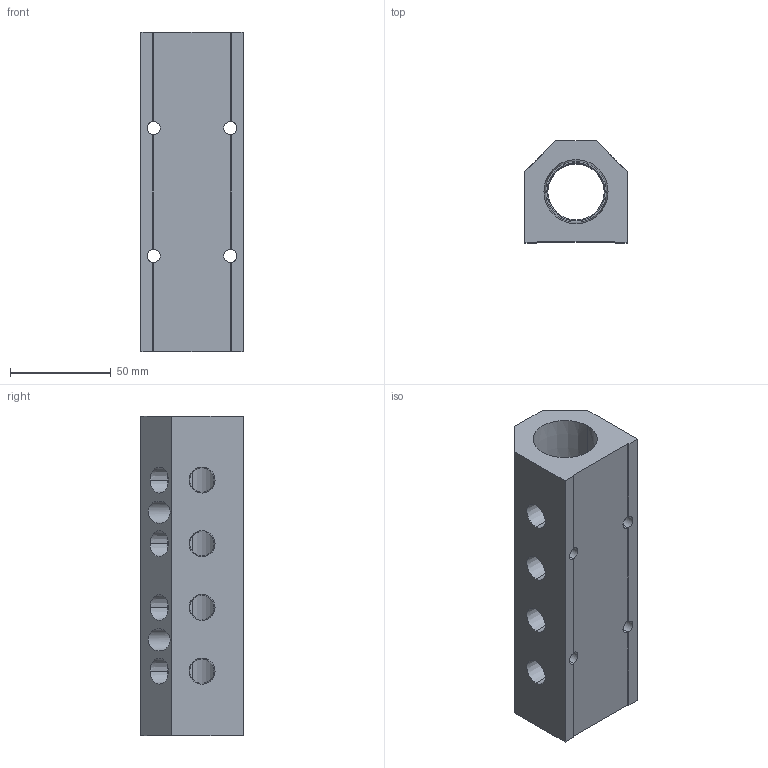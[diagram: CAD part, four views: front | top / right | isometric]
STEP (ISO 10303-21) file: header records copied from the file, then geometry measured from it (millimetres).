
FILE_DESCRIPTION (( 'STEP AP214' ), '1' );
FILE_NAME ('ALM4ABC-N4N16-159B.STEP', '2023-11-02T06:33:19', ( '' ), ( '' ), 'SwSTEP 2.0', 'SolidWorks 2020', '' );
FILE_SCHEMA (( 'AUTOMOTIVE_DESIGN' ));
Length unit declared in the file: millimetre
Products named in the file (1): ALM4ABC-N4N16-159B
Bounding box: 50.8 x 50.8 x 159 mm (x, y, z)
Volume: 239195.5 mm3; surface area: 53439.8 mm2
Topology: 1 solids, 1 shells, 335 faces, 887 edges, 586 vertices
Faces by surface type: plane 224, bspline 57, cone 32, cylinder 22
Entity records: 17953 total; most frequent: CARTESIAN_POINT 6934, ORIENTED_EDGE 1774, DIRECTION 1351, EDGE_CURVE 887, VECTOR 657, LINE 657, VERTEX_POINT 586, EDGE_LOOP 401
